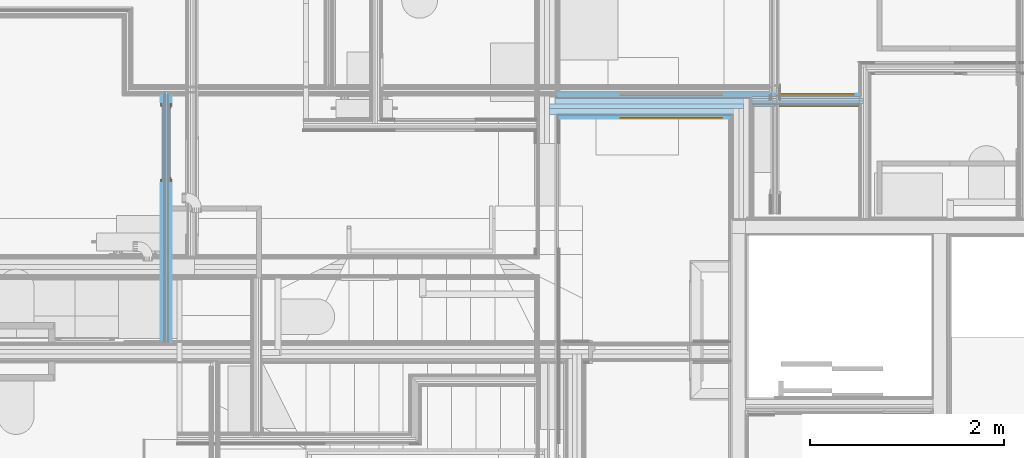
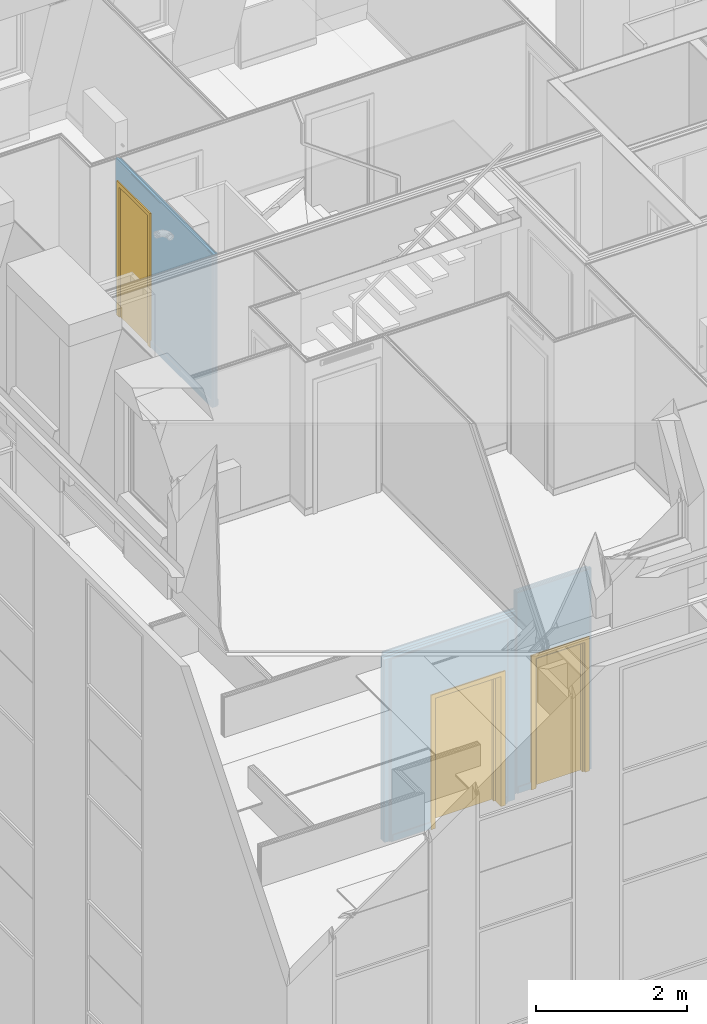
# One storey, part 87 of 169: 3 doors, 3 openings, 3 elements without a shape of their own, plus 23 elements that do not belong to this part.
"""IFC2X3 building model written with IfcOpenShell, lengths in metres."""

from ifc_helpers import new_model, entity, si_unit, converted_unit, derived_unit, money_unit, direction, frame, frame_2d, origin_with_axes, place, context, subcontext, project, spatial, polyline, rectangle, outline, extrude, faceted_brep, material, type_object, element, fill, aggregate, save


model = new_model("IFC2X3")

# Units and contexts
model_context = context("Model", 3, precision=1e-05, world=origin_with_axes(), true_north=direction((0.0, 1.0)))
body_context = subcontext(model_context, "Body", "Model", "MODEL_VIEW", scale=1.0)
ifc_project = project(units=[si_unit("LENGTHUNIT", "METRE"), si_unit("AREAUNIT", "SQUARE_METRE"), si_unit("VOLUMEUNIT", "CUBIC_METRE"), si_unit("ABSORBEDDOSEUNIT", "GRAY"), si_unit("AMOUNTOFSUBSTANCEUNIT", "MOLE"), si_unit("DOSEEQUIVALENTUNIT", "SIEVERT"), si_unit("ELECTRICCAPACITANCEUNIT", "FARAD"), si_unit("ELECTRICCHARGEUNIT", "COULOMB"), si_unit("ELECTRICCONDUCTANCEUNIT", "SIEMENS"), si_unit("ELECTRICCURRENTUNIT", "AMPERE"), si_unit("ELECTRICRESISTANCEUNIT", "OHM"), si_unit("ELECTRICVOLTAGEUNIT", "VOLT"), si_unit("ENERGYUNIT", "JOULE"), si_unit("FORCEUNIT", "NEWTON"), si_unit("FREQUENCYUNIT", "HERTZ"), si_unit("ILLUMINANCEUNIT", "LUX"), si_unit("INDUCTANCEUNIT", "HENRY"), si_unit("LUMINOUSFLUXUNIT", "LUMEN"), si_unit("LUMINOUSINTENSITYUNIT", "CANDELA"), si_unit("MAGNETICFLUXDENSITYUNIT", "TESLA"), si_unit("MAGNETICFLUXUNIT", "WEBER"), si_unit("MASSUNIT", "GRAM"), converted_unit("PLANEANGLEUNIT", "degree", entity("IfcReal", 0.0174532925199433), si_unit("PLANEANGLEUNIT", "RADIAN"), dimensions=[0, 0, 0, 0, 0, 0, 0]), si_unit("POWERUNIT", "WATT"), si_unit("PRESSUREUNIT", "PASCAL"), si_unit("RADIOACTIVITYUNIT", "BECQUEREL"), si_unit("SOLIDANGLEUNIT", "STERADIAN"), si_unit("THERMODYNAMICTEMPERATUREUNIT", "KELVIN"), si_unit("TIMEUNIT", "SECOND"), derived_unit("ACCELERATIONUNIT", [(si_unit("LENGTHUNIT", "METRE"), 1), (si_unit("TIMEUNIT", "SECOND"), -2)]), derived_unit("ANGULARVELOCITYUNIT", [(converted_unit("PLANEANGLEUNIT", "degree", entity("IfcReal", 0.0174532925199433), si_unit("PLANEANGLEUNIT", "RADIAN"), dimensions=[0, 0, 0, 0, 0, 0, 0]), 1), (si_unit("TIMEUNIT", "SECOND"), -1)]), derived_unit("CURVATUREUNIT", [(converted_unit("PLANEANGLEUNIT", "degree", entity("IfcReal", 0.0174532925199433), si_unit("PLANEANGLEUNIT", "RADIAN"), dimensions=[0, 0, 0, 0, 0, 0, 0]), 1), (si_unit("LENGTHUNIT", "METRE"), -1)]), derived_unit("DYNAMICVISCOSITYUNIT", [(si_unit("PRESSUREUNIT", "PASCAL"), 1), (si_unit("TIMEUNIT", "SECOND"), 1)]), derived_unit("HEATFLUXDENSITYUNIT", [(si_unit("POWERUNIT", "WATT"), 1), (si_unit("LENGTHUNIT", "METRE"), -2)]), derived_unit("HEATINGVALUEUNIT", [(si_unit("ENERGYUNIT", "JOULE"), 1), (si_unit("MASSUNIT", "GRAM"), -1)]), derived_unit("INTEGERCOUNTRATEUNIT", [(si_unit("TIMEUNIT", "SECOND"), -1)]), derived_unit("IONCONCENTRATIONUNIT", [(si_unit("MASSUNIT", "GRAM"), 1), (si_unit("VOLUMEUNIT", "CUBIC_METRE"), -1)]), derived_unit("ISOTHERMALMOISTURECAPACITYUNIT", [(si_unit("VOLUMEUNIT", "CUBIC_METRE"), 1), (si_unit("MASSUNIT", "GRAM"), -1)]), derived_unit("KINEMATICVISCOSITYUNIT", [(si_unit("AREAUNIT", "SQUARE_METRE"), 1), (si_unit("TIMEUNIT", "SECOND"), -1)]), derived_unit("LINEARFORCEUNIT", [(si_unit("FORCEUNIT", "NEWTON"), 1), (si_unit("LENGTHUNIT", "METRE"), -1)]), derived_unit("LINEARMOMENTUNIT", [(si_unit("FORCEUNIT", "NEWTON"), 1), (si_unit("LENGTHUNIT", "METRE"), -1)]), derived_unit("LINEARSTIFFNESSUNIT", [(si_unit("FORCEUNIT", "NEWTON"), 1), (si_unit("LENGTHUNIT", "METRE"), -1)]), derived_unit("LINEARVELOCITYUNIT", [(si_unit("LENGTHUNIT", "METRE"), 1), (si_unit("TIMEUNIT", "SECOND"), -1)]), derived_unit("LUMINOUSINTENSITYDISTRIBUTIONUNIT", [(si_unit("LUMINOUSINTENSITYUNIT", "CANDELA"), 1), (si_unit("LUMINOUSFLUXUNIT", "LUMEN"), -1)]), derived_unit("MASSDENSITYUNIT", [(si_unit("MASSUNIT", "GRAM"), 1), (si_unit("VOLUMEUNIT", "CUBIC_METRE"), -1)]), derived_unit("MASSFLOWRATEUNIT", [(si_unit("MASSUNIT", "GRAM"), 1), (si_unit("TIMEUNIT", "SECOND"), -1)]), derived_unit("MASSPERLENGTHUNIT", [(si_unit("MASSUNIT", "GRAM"), 1), (si_unit("LENGTHUNIT", "METRE"), -1)]), derived_unit("MODULUSOFELASTICITYUNIT", [(si_unit("FORCEUNIT", "NEWTON"), 1), (si_unit("AREAUNIT", "SQUARE_METRE"), -1)]), derived_unit("MODULUSOFLINEARSUBGRADEREACTIONUNIT", [(si_unit("FORCEUNIT", "NEWTON"), 1), (si_unit("LENGTHUNIT", "METRE"), -2)]), derived_unit("MODULUSOFROTATIONALSUBGRADEREACTIONUNIT", [(si_unit("FORCEUNIT", "NEWTON"), 1), (si_unit("LENGTHUNIT", "METRE"), 1)]), derived_unit("MODULUSOFSUBGRADEREACTIONUNIT", [(si_unit("FORCEUNIT", "NEWTON"), 1), (si_unit("VOLUMEUNIT", "CUBIC_METRE"), -1)]), derived_unit("MOISTUREDIFFUSIVITYUNIT", [(si_unit("VOLUMEUNIT", "CUBIC_METRE"), 1), (si_unit("TIMEUNIT", "SECOND"), -1)]), derived_unit("MOLECULARWEIGHTUNIT", [(si_unit("MASSUNIT", "GRAM"), 1), (si_unit("AMOUNTOFSUBSTANCEUNIT", "MOLE"), -1)]), derived_unit("PLANARFORCEUNIT", [(si_unit("FORCEUNIT", "NEWTON"), 1), (si_unit("LENGTHUNIT", "METRE"), -2)]), derived_unit("ROTATIONALFREQUENCYUNIT", [(si_unit("TIMEUNIT", "SECOND"), -1)]), derived_unit("ROTATIONALMASSUNIT", [(si_unit("MASSUNIT", "GRAM"), 1), (si_unit("LENGTHUNIT", "METRE"), 2)]), derived_unit("ROTATIONALSTIFFNESSUNIT", [(si_unit("FORCEUNIT", "NEWTON"), 1), (si_unit("LENGTHUNIT", "METRE"), 1), (converted_unit("PLANEANGLEUNIT", "degree", entity("IfcReal", 0.0174532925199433), si_unit("PLANEANGLEUNIT", "RADIAN"), dimensions=[0, 0, 0, 0, 0, 0, 0]), -1)]), derived_unit("SECTIONAREAINTEGRALUNIT", [(si_unit("LENGTHUNIT", "METRE"), 5)]), derived_unit("SECTIONMODULUSUNIT", [(si_unit("LENGTHUNIT", "METRE"), 3)]), derived_unit("SHEARMODULUSUNIT", [(si_unit("FORCEUNIT", "NEWTON"), 1), (si_unit("AREAUNIT", "SQUARE_METRE"), -1)]), derived_unit("SOUNDPOWERUNIT", [(si_unit("ENERGYUNIT", "JOULE"), 1), (si_unit("TIMEUNIT", "SECOND"), -1)]), derived_unit("SPECIFICHEATCAPACITYUNIT", [(si_unit("FORCEUNIT", "NEWTON"), 1), (si_unit("MASSUNIT", "GRAM"), -1), (si_unit("THERMODYNAMICTEMPERATUREUNIT", "KELVIN"), -1)]), derived_unit("TEMPERATUREGRADIENTUNIT", [(si_unit("THERMODYNAMICTEMPERATUREUNIT", "KELVIN"), 1), (si_unit("LENGTHUNIT", "METRE"), -1)]), derived_unit("THERMALADMITTANCEUNIT", [(si_unit("POWERUNIT", "WATT"), 1), (si_unit("AREAUNIT", "SQUARE_METRE"), -1), (si_unit("THERMODYNAMICTEMPERATUREUNIT", "KELVIN"), -1)]), derived_unit("THERMALCONDUCTANCEUNIT", [(si_unit("POWERUNIT", "WATT"), 1), (si_unit("LENGTHUNIT", "METRE"), -1), (si_unit("THERMODYNAMICTEMPERATUREUNIT", "KELVIN"), -1)]), derived_unit("THERMALEXPANSIONCOEFFICIENTUNIT", [(si_unit("THERMODYNAMICTEMPERATUREUNIT", "KELVIN"), -1)]), derived_unit("THERMALRESISTANCEUNIT", [(si_unit("AREAUNIT", "SQUARE_METRE"), 1), (si_unit("POWERUNIT", "WATT"), -1)]), derived_unit("THERMALTRANSMITTANCEUNIT", [(si_unit("POWERUNIT", "WATT"), 1), (si_unit("AREAUNIT", "SQUARE_METRE"), -1), (si_unit("THERMODYNAMICTEMPERATUREUNIT", "KELVIN"), -1)]), derived_unit("TORQUEUNIT", [(si_unit("FORCEUNIT", "NEWTON"), 1), (si_unit("LENGTHUNIT", "METRE"), 1)]), derived_unit("VAPORPERMEABILITYUNIT", [(si_unit("MASSUNIT", "GRAM"), 1), (si_unit("TIMEUNIT", "SECOND"), -1)]), derived_unit("VOLUMETRICFLOWRATEUNIT", [(si_unit("VOLUMEUNIT", "CUBIC_METRE"), 1), (si_unit("TIMEUNIT", "SECOND"), -1)]), derived_unit("WARPINGCONSTANTUNIT", [(si_unit("LENGTHUNIT", "METRE"), 6)]), derived_unit("WARPINGMOMENTUNIT", [(si_unit("FORCEUNIT", "NEWTON"), 1), (si_unit("LENGTHUNIT", "METRE"), 2)]), money_unit("GBP")], contexts=[model_context])

# Site, building, storey, space
site_placement = place(None, origin_with_axes())
site = spatial("IfcSite", under=ifc_project, at=site_placement, Name="Site", CompositionType="ELEMENT")
building_placement = place(site_placement, origin_with_axes())
building = spatial("IfcBuilding", under=site, at=building_placement, Name="Building01", CompositionType="ELEMENT")
storey_placement = place(building_placement, frame((0.0, 0.0, 5.15), z_axis=(0.0, 0.0, 1.0), x_axis=(1.0, 0.0, 0.0)))
storey = spatial("IfcBuildingStorey", under=building, at=storey_placement, Name="1F", CompositionType="ELEMENT", Elevation=5.15)
space_1_placement = place(storey_placement, frame((1.009939, 13.890379, 9.86), z_axis=(0.0, 0.0, 1.0), x_axis=(0.0, -1.0, 0.0)))
space_1 = spatial("IfcSpace", under=storey, at=space_1_placement, Name="26", CompositionType="ELEMENT", InteriorOrExteriorSpace="NOTDEFINED")

# Door
ifc_material_1 = material(Name="A_BSUK_Doors")
door_style_1 = type_object("IfcDoorStyle", Name="A-Doors-SingleFlush", ConstructionType="USERDEFINED", OperationType="SINGLE_SWING_RIGHT", ParameterTakesPrecedence=False, Sizeable=False)
wall_3_placement = place(storey_placement, frame((3.272, 7.550061, 9.83), z_axis=(0.0, 0.0, 1.0), x_axis=(0.0, 1.0, 0.0)))
opening_3_placement = place(wall_3_placement, frame((1.632879, -0.043, 0.0), z_axis=(0.0, 0.0, 1.0), x_axis=(1.0, 0.0, 0.0)))
door_1_placement = place(opening_3_placement, frame((0.042, 0.095, 0.0), z_axis=(0.0, 0.0, 1.0), x_axis=(1.0, 0.0, 0.0)))
door_1 = element("IfcDoor", 1, at=door_1_placement, inside=space_1, type_object=door_style_1, material=ifc_material_1, Name="4.26", ObjectType="A-Doors-SingleFlush", OverallHeight=2.142, OverallWidth=0.834000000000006, context=body_context, shape_type="Brep", body=[
    faceted_brep([(0.75, -0.099, 0.0), (0.819, -0.099, 0.0), (0.819, -0.099, 2.169), (-0.069, -0.099, 2.169), (-0.069, -0.099, 0.0), (0.0, -0.099, 0.0), (0.0, -0.099, 2.1), (0.75, -0.099, 2.1), (-0.069, -0.08, 0.0), (-0.069, -0.08, 2.169), (0.819, -0.08, 2.169), (0.819, -0.08, 0.0), (0.75, 0.019, 0.0), (0.819, 0.019, 0.0), (0.819, 0.0, 0.0), (0.792, 0.0, 0.0), (0.792, -0.08, 0.0), (0.75, 0.019, 2.1), (0.0, 0.019, 2.1), (0.0, 0.019, 0.0), (-0.069, 0.019, 0.0), (-0.069, 0.019, 2.169), (0.819, 0.019, 2.169), (0.819, 0.0, 2.169), (0.792, -0.08, 2.142), (0.792, 0.0, 2.142), (-0.042, -0.08, 2.142), (-0.042, 0.0, 2.142), (-0.042, -0.08, 0.0), (-0.042, 0.0, 0.0), (-0.069, 0.0, 2.169), (-0.069, 0.0, 0.0)], [[[0, 1, 2, 3, 4, 5, 6, 7]], [[8, 4, 3, 9]], [[10, 2, 1, 11]], [[9, 3, 2, 10]], [[12, 13, 14, 15, 16, 11, 1, 0]], [[7, 17, 12, 0]], [[6, 18, 17, 7]], [[18, 19, 20, 21, 22, 13, 12, 17]], [[5, 19, 18, 6]], [[13, 22, 23, 14]], [[24, 16, 15, 25]], [[26, 24, 25, 27]], [[11, 16, 24, 26, 28, 8, 9, 10]], [[27, 29, 28, 26]], [[25, 15, 14, 23, 30, 31, 29, 27]], [[5, 4, 8, 28, 29, 31, 20, 19]], [[30, 21, 20, 31]], [[23, 22, 21, 30]]]),
    faceted_brep([(0.0, -0.09, 2.1), (0.0, -0.04, 2.1), (0.0, -0.04, 0.0), (0.0, -0.09, 0.0), (0.725, -0.09, 0.0), (0.75, -0.09, 0.0), (0.75, -0.09, 2.1), (0.025, -0.09, 0.0), (0.025, -0.09, 2.075), (0.725, -0.09, 2.075), (0.725, -0.04, 0.0), (0.75, -0.04, 0.0), (0.75, -0.04, 2.1), (0.025, -0.04, 2.075), (0.025, -0.04, 0.0), (0.725, -0.04, 2.075)], [[[0, 1, 2, 3]], [[4, 5, 6, 0, 3, 7, 8, 9]], [[10, 11, 5, 4]], [[6, 12, 1, 0]], [[5, 11, 12, 6]], [[13, 14, 2, 1, 12, 11, 10, 15]], [[7, 14, 13, 8]], [[7, 3, 2, 14]], [[9, 15, 10, 4]], [[8, 13, 15, 9]]]),
    faceted_brep([(0.75, -0.04, 0.0), (0.75, 0.0, 0.0), (0.75, 0.0, 2.1), (0.75, -0.04, 2.1), (0.0, -0.04, 2.1), (0.0, 0.0, 2.1), (0.0, 0.0, 0.0), (0.0, -0.04, 0.0)], [[[0, 1, 2, 3]], [[4, 5, 6, 7]], [[7, 6, 1, 0]], [[3, 4, 7, 0]], [[3, 2, 5, 4]], [[1, 6, 5, 2]]]),
])

# Space
space_2_placement = place(storey_placement, frame((11.375, 11.668124, 0.017975), z_axis=(0.0, 0.0, 1.0), x_axis=(-1.0, 0.0, 0.0)))
space_2 = spatial("IfcSpace", under=storey, at=space_2_placement, Name="corridor", CompositionType="ELEMENT", InteriorOrExteriorSpace="NOTDEFINED")

# Door
door_style_2 = type_object("IfcDoorStyle", Name="A-Doors-SingleFlush", ConstructionType="USERDEFINED", OperationType="SINGLE_SWING_LEFT", ParameterTakesPrecedence=False, Sizeable=False)
wall_1_placement = place(storey_placement, frame((9.197, 9.949704, 0.0), z_axis=(0.0, 0.0, 1.0), x_axis=(-1.0, 0.0, 0.0)))
opening_1_placement = place(wall_1_placement, frame((0.200331, -0.153, 0.0), z_axis=(0.0, 0.0, 1.0), x_axis=(1.0, 0.0, 0.0)))
door_2_placement = place(opening_1_placement, frame((1.042, 0.015, 0.0), z_axis=(0.0, 0.0, 1.0), x_axis=(-1.0, 0.0, 0.0)))
door_2 = element("IfcDoor", 2, at=door_2_placement, inside=space_2, type_object=door_style_2, material=ifc_material_1, Name="1.23", ObjectType="A-Doors-SingleFlush", OverallHeight=2.142, OverallWidth=1.08400000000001, context=body_context, shape_type="Brep", body=[
    faceted_brep([(0.0, -0.244, 2.1), (1.0, -0.244, 2.1), (1.0, -0.244, 0.0), (1.069, -0.244, 0.0), (1.069, -0.244, 2.169), (-0.069, -0.244, 2.169), (-0.069, -0.244, 0.0), (0.0, -0.244, 0.0), (1.069, -0.225, 2.169), (1.069, -0.225, 0.0), (-0.069, -0.225, 0.0), (-0.069, -0.225, 2.169), (-0.042, -0.225, 0.0), (-0.042, 0.0, 0.0), (-0.069, 0.0, 0.0), (-0.069, 0.019, 0.0), (0.0, 0.019, 0.0), (0.0, 0.019, 2.1), (1.0, 0.019, 2.1), (-0.069, 0.019, 2.169), (1.069, 0.019, 2.169), (1.069, 0.019, 0.0), (1.0, 0.019, 0.0), (-0.069, 0.0, 2.169), (-0.042, 0.0, 2.142), (-0.042, -0.225, 2.142), (1.042, 0.0, 2.142), (1.042, -0.225, 2.142), (1.042, -0.225, 0.0), (1.042, 0.0, 0.0), (1.069, 0.0, 0.0), (1.069, 0.0, 2.169)], [[[0, 1, 2, 3, 4, 5, 6, 7]], [[8, 4, 3, 9]], [[10, 6, 5, 11]], [[11, 5, 4, 8]], [[7, 6, 10, 12, 13, 14, 15, 16]], [[7, 16, 17, 0]], [[0, 17, 18, 1]], [[17, 16, 15, 19, 20, 21, 22, 18]], [[1, 18, 22, 2]], [[14, 23, 19, 15]], [[24, 13, 12, 25]], [[26, 24, 25, 27]], [[11, 8, 9, 28, 27, 25, 12, 10]], [[27, 28, 29, 26]], [[26, 29, 30, 31, 23, 14, 13, 24]], [[22, 21, 30, 29, 28, 9, 3, 2]], [[30, 21, 20, 31]], [[31, 20, 19, 23]]]),
    faceted_brep([(1.0, -0.09, 0.0), (1.0, -0.04, 0.0), (1.0, -0.04, 2.1), (1.0, -0.09, 2.1), (0.025, -0.09, 2.075), (0.975, -0.09, 2.075), (0.975, -0.09, 0.0), (0.0, -0.09, 2.1), (0.0, -0.09, 0.0), (0.025, -0.09, 0.0), (0.0, -0.04, 0.0), (0.025, -0.04, 0.0), (0.0, -0.04, 2.1), (0.025, -0.04, 2.075), (0.975, -0.04, 0.0), (0.975, -0.04, 2.075)], [[[0, 1, 2, 3]], [[4, 5, 6, 0, 3, 7, 8, 9]], [[9, 8, 10, 11]], [[3, 2, 12, 7]], [[7, 12, 10, 8]], [[13, 11, 10, 12, 2, 1, 14, 15]], [[5, 15, 14, 6]], [[14, 1, 0, 6]], [[9, 11, 13, 4]], [[4, 13, 15, 5]]]),
    faceted_brep([(0.0, -0.04, 2.1), (0.0, 0.0, 2.1), (0.0, 0.0, 0.0), (0.0, -0.04, 0.0), (1.0, -0.04, 0.0), (1.0, 0.0, 0.0), (1.0, 0.0, 2.1), (1.0, -0.04, 2.1)], [[[0, 1, 2, 3]], [[4, 5, 6, 7]], [[3, 2, 5, 4]], [[3, 4, 7, 0]], [[7, 6, 1, 0]], [[1, 6, 5, 2]]]),
])

# Space
space_3_placement = place(storey_placement, frame((7.289669, 14.582, 0.017975), z_axis=(0.0, 0.0, 1.0), x_axis=(0.0, -1.0, 0.0)))
space_3 = spatial("IfcSpace", under=storey, at=space_3_placement, Name="08", CompositionType="ELEMENT", InteriorOrExteriorSpace="NOTDEFINED")

# Door
door_style_3 = type_object("IfcDoorStyle", Name="A-Doors-SingleFlush", ConstructionType="USERDEFINED", OperationType="SINGLE_SWING_RIGHT", ParameterTakesPrecedence=False, Sizeable=False)
wall_2_placement = place(storey_placement, frame((10.428871, 10.052704, 0.0), z_axis=(0.0, 0.0, 1.0), x_axis=(-1.0, 0.0, 0.0)))
opening_2_placement = place(wall_2_placement, frame((0.077, -0.05, 0.0), z_axis=(0.0, 0.0, 1.0), x_axis=(1.0, 0.0, 0.0)))
door_3_placement = place(opening_2_placement, frame((0.792, 0.015, 0.0), z_axis=(0.0, 0.0, 1.0), x_axis=(-1.0, 0.0, 0.0)))
door_3 = element("IfcDoor", 3, at=door_3_placement, inside=space_3, type_object=door_style_3, material=ifc_material_1, Name="1.24", ObjectType="A-Doors-SingleFlush", OverallHeight=2.142, OverallWidth=0.834, context=body_context, shape_type="Brep", body=[
    faceted_brep([(0.75, -0.114, 0.0), (0.819, -0.114, 0.0), (0.819, -0.114, 2.169), (-0.069, -0.114, 2.169), (-0.069, -0.114, 0.0), (0.0, -0.114, 0.0), (0.0, -0.114, 2.1), (0.75, -0.114, 2.1), (-0.069, -0.095, 0.0), (-0.069, -0.095, 2.169), (0.819, -0.095, 2.169), (0.819, -0.095, 0.0), (0.75, 0.019, 0.0), (0.819, 0.019, 0.0), (0.819, 0.0, 0.0), (0.792, 0.0, 0.0), (0.792, -0.095, 0.0), (0.75, 0.019, 2.1), (0.0, 0.019, 2.1), (0.0, 0.019, 0.0), (-0.069, 0.019, 0.0), (-0.069, 0.019, 2.169), (0.819, 0.019, 2.169), (0.819, 0.0, 2.169), (0.792, -0.095, 2.142), (0.792, 0.0, 2.142), (-0.042, -0.095, 2.142), (-0.042, 0.0, 2.142), (-0.042, -0.095, 0.0), (-0.042, 0.0, 0.0), (-0.069, 0.0, 2.169), (-0.069, 0.0, 0.0)], [[[0, 1, 2, 3, 4, 5, 6, 7]], [[8, 4, 3, 9]], [[10, 2, 1, 11]], [[9, 3, 2, 10]], [[12, 13, 14, 15, 16, 11, 1, 0]], [[7, 17, 12, 0]], [[6, 18, 17, 7]], [[18, 19, 20, 21, 22, 13, 12, 17]], [[5, 19, 18, 6]], [[13, 22, 23, 14]], [[24, 16, 15, 25]], [[26, 24, 25, 27]], [[11, 16, 24, 26, 28, 8, 9, 10]], [[27, 29, 28, 26]], [[25, 15, 14, 23, 30, 31, 29, 27]], [[5, 4, 8, 28, 29, 31, 20, 19]], [[30, 21, 20, 31]], [[23, 22, 21, 30]]]),
    faceted_brep([(0.0, -0.09, 2.1), (0.0, -0.04, 2.1), (0.0, -0.04, 0.0), (0.0, -0.09, 0.0), (0.725, -0.09, 0.0), (0.75, -0.09, 0.0), (0.75, -0.09, 2.1), (0.025, -0.09, 0.0), (0.025, -0.09, 2.075), (0.725, -0.09, 2.075), (0.725, -0.04, 0.0), (0.75, -0.04, 0.0), (0.75, -0.04, 2.1), (0.025, -0.04, 2.075), (0.025, -0.04, 0.0), (0.725, -0.04, 2.075)], [[[0, 1, 2, 3]], [[4, 5, 6, 0, 3, 7, 8, 9]], [[10, 11, 5, 4]], [[6, 12, 1, 0]], [[5, 11, 12, 6]], [[13, 14, 2, 1, 12, 11, 10, 15]], [[7, 14, 13, 8]], [[7, 3, 2, 14]], [[9, 15, 10, 4]], [[8, 13, 15, 9]]]),
    faceted_brep([(0.75, -0.04, 0.0), (0.75, 0.0, 0.0), (0.75, 0.0, 2.1), (0.75, -0.04, 2.1), (0.0, -0.04, 2.1), (0.0, 0.0, 2.1), (0.0, 0.0, 0.0), (0.0, -0.04, 0.0)], [[[0, 1, 2, 3]], [[4, 5, 6, 7]], [[7, 6, 1, 0]], [[3, 4, 7, 0]], [[3, 2, 5, 4]], [[1, 6, 5, 2]]]),
])

# Wall, opening
wall_type_1 = type_object("IfcWallType", Name="SHE_A-Walls_Type01c_Partywall_225mm_twin_tall", PredefinedType="NOTDEFINED")
wall_1 = element("IfcWall", 4, at=wall_1_placement, inside=storey, type_object=wall_type_1, Name="1C", ObjectType="SHE_A-Walls_Type01c_Partywall_225mm_twin_tall")
opening_1 = element("IfcOpeningElement", 5, at=opening_1_placement, cuts=wall_1, Name="Opening", ObjectType="Opening", context=body_context, shape_type="SweptSolid", body=[
    extrude(rectangle(XDim=1.084, YDim=2.142, at=frame_2d((-0.542, 1.071), x_axis=(-1.0, 0.0))), frame((0.0, 0.0, 0.0), z_axis=(0.0, 1.0, 0.0), x_axis=(-1.0, 0.0, 0.0)), (0.0, 0.0, 1.0), 0.255),
])

fill(opening_1, door_2)

# Building element part
ifc_material_2 = material(Name="A_BSUK_Walls_Timber")
placement_1 = place(wall_1_placement, origin_with_axes())
building_element_part_1 = element("IfcBuildingElementPart", 6, at=placement_1, material=ifc_material_2, Name="1", context=body_context, shape_type="SweptSolid", body=[
    extrude(outline(polyline([(1.907331, -0.138), (-0.088, -0.138), (-0.103, -0.153), (1.907331, -0.153), (1.907331, -0.138)])), frame((0.0, 0.0, 0.015), z_axis=(0.0, 0.0, 1.0), x_axis=(1.0, 0.0, 0.0)), (0.0, 0.0, 1.0), 0.1),
])

ifc_material_3 = material(Name="A_BSUK_WallInternal_Finishes_Plasterboard")
building_element_part_2 = element("IfcBuildingElementPart", 7, at=placement_1, material=ifc_material_3, Name="2", context=body_context, shape_type="SweptSolid", body=[
    extrude(rectangle(XDim=2.010331, YDim=0.015, at=frame_2d((0.917166, -0.1305), x_axis=(-1.0, 0.0))), origin_with_axes(), (0.0, 0.0, 1.0), 2.95),
])

building_element_part_3 = element("IfcBuildingElementPart", 8, at=placement_1, material=ifc_material_3, Name="3", context=body_context, shape_type="SweptSolid", body=[
    extrude(rectangle(XDim=2.010331, YDim=0.015, at=frame_2d((0.932166, -0.1155), x_axis=(-1.0, 0.0))), origin_with_axes(), (0.0, 0.0, 1.0), 2.95),
])

ifc_material_4 = material(Name="Air Cavity")
building_element_part_4 = element("IfcBuildingElementPart", 9, at=placement_1, material=ifc_material_4, Name="4", context=body_context, shape_type="SweptSolid", body=[
    extrude(rectangle(XDim=2.010331, YDim=0.058, at=frame_2d((0.932166, -0.079), x_axis=(-1.0, 0.0))), origin_with_axes(), (0.0, 0.0, 1.0), 2.95),
])

ifc_material_5 = material(Name="A_BSUK_Insulation")
building_element_part_5 = element("IfcBuildingElementPart", 10, at=placement_1, material=ifc_material_5, Name="5", context=body_context, shape_type="SweptSolid", body=[
    extrude(rectangle(XDim=1.995331, YDim=0.05, at=frame_2d((0.997666, -0.025), x_axis=(-1.0, 0.0))), origin_with_axes(), (0.0, 0.0, 1.0), 2.95),
])

building_element_part_6 = element("IfcBuildingElementPart", 11, at=placement_1, material=ifc_material_4, Name="6", context=body_context, shape_type="SweptSolid", body=[
    extrude(rectangle(XDim=1.995331, YDim=0.057, at=frame_2d((0.997666, 0.0285), x_axis=(-1.0, 0.0))), origin_with_axes(), (0.0, 0.0, 1.0), 2.95),
])

building_element_part_7 = element("IfcBuildingElementPart", 12, at=placement_1, material=ifc_material_3, Name="7", context=body_context, shape_type="SweptSolid", body=[
    extrude(outline(polyline([(1.922331, 0.072), (0.122, 0.072), (0.107, 0.057), (1.922331, 0.057), (1.922331, 0.072)])), origin_with_axes(), (0.0, 0.0, 1.0), 2.95),
])

building_element_part_8 = element("IfcBuildingElementPart", 13, at=placement_1, material=ifc_material_3, Name="8", context=body_context, shape_type="SweptSolid", body=[
    extrude(outline(polyline([(1.907331, 0.087), (0.137, 0.087), (0.122, 0.072), (1.907331, 0.072), (1.907331, 0.087)])), origin_with_axes(), (0.0, 0.0, 1.0), 2.95),
])

building_element_part_9 = element("IfcBuildingElementPart", 14, at=placement_1, material=ifc_material_2, Name="9", context=body_context, shape_type="SweptSolid", body=[
    extrude(outline(polyline([(1.892331, 0.102), (0.152, 0.102), (0.137, 0.087), (1.892331, 0.087), (1.892331, 0.102)])), frame((0.0, 0.0, 0.015), z_axis=(0.0, 0.0, 1.0), x_axis=(1.0, 0.0, 0.0)), (0.0, 0.0, 1.0), 0.1),
])

aggregate(wall_1, [building_element_part_1, building_element_part_2, building_element_part_3, building_element_part_4, building_element_part_5, building_element_part_6, building_element_part_7, building_element_part_8, building_element_part_9])

# Wall, opening
wall_type_2 = type_object("IfcWallType", Name="SHE_A-Walls_Type05a_Partition_95mm_tall", PredefinedType="NOTDEFINED")
wall_2 = element("IfcWall", 15, at=wall_2_placement, inside=storey, type_object=wall_type_2, Name="5A", ObjectType="SHE_A-Walls_Type05a_Partition_95mm_tall")
opening_2 = element("IfcOpeningElement", 16, at=opening_2_placement, cuts=wall_2, Name="Opening", ObjectType="Opening", context=body_context, shape_type="SweptSolid", body=[
    extrude(rectangle(XDim=0.834, YDim=2.142, at=frame_2d((-0.417, 1.071), x_axis=(1.0, 0.0))), frame((0.0, 0.0, 0.0), z_axis=(0.0, 1.0, 0.0), x_axis=(-1.0, 0.0, 0.0)), (0.0, 0.0, 1.0), 0.125),
])

fill(opening_2, door_3)

# Building element part
placement_2 = place(wall_2_placement, origin_with_axes())
building_element_part_10 = element("IfcBuildingElementPart", 17, at=placement_2, material=ifc_material_2, Name="1", context=body_context, shape_type="SweptSolid", body=[
    extrude(rectangle(XDim=0.015, YDim=1.093871, at=frame_2d((0.596935, -0.0425), x_axis=(0.0, -1.0))), frame((0.0, 0.0, 0.015), z_axis=(0.0, 0.0, 1.0), x_axis=(1.0, 0.0, 0.0)), (0.0, 0.0, 1.0), 0.1),
])

building_element_part_11 = element("IfcBuildingElementPart", 18, at=placement_2, material=ifc_material_3, Name="2", context=body_context, shape_type="SweptSolid", body=[
    extrude(rectangle(XDim=1.108871, YDim=0.012, at=frame_2d((0.589435, -0.029), x_axis=(-1.0, 0.0))), origin_with_axes(), (0.0, 0.0, 1.0), 3.24),
])

building_element_part_12 = element("IfcBuildingElementPart", 19, at=placement_2, material=ifc_material_4, Name="3", context=body_context, shape_type="SweptSolid", body=[
    extrude(rectangle(XDim=1.108871, YDim=0.023, at=frame_2d((0.589435, -0.0115), x_axis=(-1.0, 0.0))), origin_with_axes(), (0.0, 0.0, 1.0), 3.24),
])

building_element_part_13 = element("IfcBuildingElementPart", 20, at=placement_2, material=ifc_material_5, Name="4", context=body_context, shape_type="SweptSolid", body=[
    extrude(rectangle(XDim=1.143871, YDim=0.025, at=frame_2d((0.571935, 0.0125), x_axis=(-1.0, 0.0))), origin_with_axes(), (0.0, 0.0, 1.0), 3.24),
])

building_element_part_14 = element("IfcBuildingElementPart", 21, at=placement_2, material=ifc_material_4, Name="5", context=body_context, shape_type="SweptSolid", body=[
    extrude(rectangle(XDim=1.143871, YDim=0.023, at=frame_2d((0.571935, 0.0365), x_axis=(-1.0, 0.0))), origin_with_axes(), (0.0, 0.0, 1.0), 3.24),
])

building_element_part_15 = element("IfcBuildingElementPart", 22, at=placement_2, material=ifc_material_3, Name="6", context=body_context, shape_type="SweptSolid", body=[
    extrude(rectangle(XDim=1.108871, YDim=0.012, at=frame_2d((0.589435, 0.054), x_axis=(-1.0, 0.0))), origin_with_axes(), (0.0, 0.0, 1.0), 3.24),
])

building_element_part_16 = element("IfcBuildingElementPart", 23, at=placement_2, material=ifc_material_2, Name="7", context=body_context, shape_type="SweptSolid", body=[
    extrude(outline(polyline([(1.128871, 0.075), (0.25, 0.075), (0.235, 0.06), (1.128871, 0.06), (1.128871, 0.075)])), frame((0.0, 0.0, 0.015), z_axis=(0.0, 0.0, 1.0), x_axis=(1.0, 0.0, 0.0)), (0.0, 0.0, 1.0), 0.1),
])

aggregate(wall_2, [building_element_part_10, building_element_part_11, building_element_part_12, building_element_part_13, building_element_part_14, building_element_part_15, building_element_part_16])

# Wall, opening
wall_type_3 = type_object("IfcWallType", Name="SHE_A-Walls_Type05b_Partition_80mm", PredefinedType="NOTDEFINED")
wall_3 = element("IfcWall", 24, at=wall_3_placement, inside=storey, type_object=wall_type_3, Name="5B", ObjectType="SHE_A-Walls_Type05b_Partition_80mm")
opening_3 = element("IfcOpeningElement", 25, at=opening_3_placement, cuts=wall_3, Name="Opening", ObjectType="Opening", context=body_context, shape_type="SweptSolid", body=[
    extrude(rectangle(XDim=0.834, YDim=2.142, at=frame_2d((-0.417, 1.071), x_axis=(-1.0, 0.0))), frame((0.0, 0.0, 0.0), z_axis=(0.0, 1.0, 0.0), x_axis=(-1.0, 0.0, 0.0)), (0.0, 0.0, 1.0), 0.11),
])

fill(opening_3, door_1)

# Building element part
placement_3 = place(wall_3_placement, origin_with_axes())
building_element_part_17 = element("IfcBuildingElementPart", 26, at=placement_3, material=ifc_material_2, Name="1", context=body_context, shape_type="SweptSolid", body=[
    extrude(rectangle(XDim=2.534879, YDim=0.015, at=frame_2d((1.267439, -0.0355), x_axis=(-1.0, 0.0))), frame((0.0, 0.0, 0.015), z_axis=(0.0, 0.0, 1.0), x_axis=(1.0, 0.0, 0.0)), (0.0, 0.0, 1.0), 0.1),
])

building_element_part_18 = element("IfcBuildingElementPart", 27, at=placement_3, material=ifc_material_3, Name="2", context=body_context, shape_type="SweptSolid", body=[
    extrude(rectangle(XDim=2.549879, YDim=0.015, at=frame_2d((1.274939, -0.0205), x_axis=(-1.0, 0.0))), origin_with_axes(), (0.0, 0.0, 1.0), 2.468),
])

building_element_part_19 = element("IfcBuildingElementPart", 28, at=placement_3, material=ifc_material_4, Name="3", context=body_context, shape_type="SweptSolid", body=[
    extrude(rectangle(XDim=2.549879, YDim=0.013, at=frame_2d((1.274939, -0.0065), x_axis=(-1.0, 0.0))), origin_with_axes(), (0.0, 0.0, 1.0), 2.468),
])

building_element_part_20 = element("IfcBuildingElementPart", 29, at=placement_3, material=ifc_material_5, Name="4", context=body_context, shape_type="SweptSolid", body=[
    extrude(rectangle(XDim=2.576879, YDim=0.025, at=frame_2d((1.288439, 0.0125), x_axis=(-1.0, 0.0))), origin_with_axes(), (0.0, 0.0, 1.0), 2.468),
])

building_element_part_21 = element("IfcBuildingElementPart", 30, at=placement_3, material=ifc_material_4, Name="5", context=body_context, shape_type="SweptSolid", body=[
    extrude(rectangle(XDim=2.576879, YDim=0.012, at=frame_2d((1.288439, 0.031), x_axis=(-1.0, 0.0))), origin_with_axes(), (0.0, 0.0, 1.0), 2.468),
])

building_element_part_22 = element("IfcBuildingElementPart", 31, at=placement_3, material=ifc_material_3, Name="6", context=body_context, shape_type="SweptSolid", body=[
    extrude(rectangle(XDim=2.549879, YDim=0.015, at=frame_2d((1.274939, 0.0445), x_axis=(-1.0, 0.0))), origin_with_axes(), (0.0, 0.0, 1.0), 2.468),
])

building_element_part_23 = element("IfcBuildingElementPart", 32, at=placement_3, material=ifc_material_2, Name="7", context=body_context, shape_type="SweptSolid", body=[
    extrude(rectangle(XDim=2.519879, YDim=0.015, at=frame_2d((1.274939, 0.0595), x_axis=(-1.0, 0.0))), frame((0.0, 0.0, 0.015), z_axis=(0.0, 0.0, 1.0), x_axis=(1.0, 0.0, 0.0)), (0.0, 0.0, 1.0), 0.1),
])

aggregate(wall_3, [building_element_part_17, building_element_part_18, building_element_part_19, building_element_part_20, building_element_part_21, building_element_part_22, building_element_part_23])

save(model, "model.ifc")
